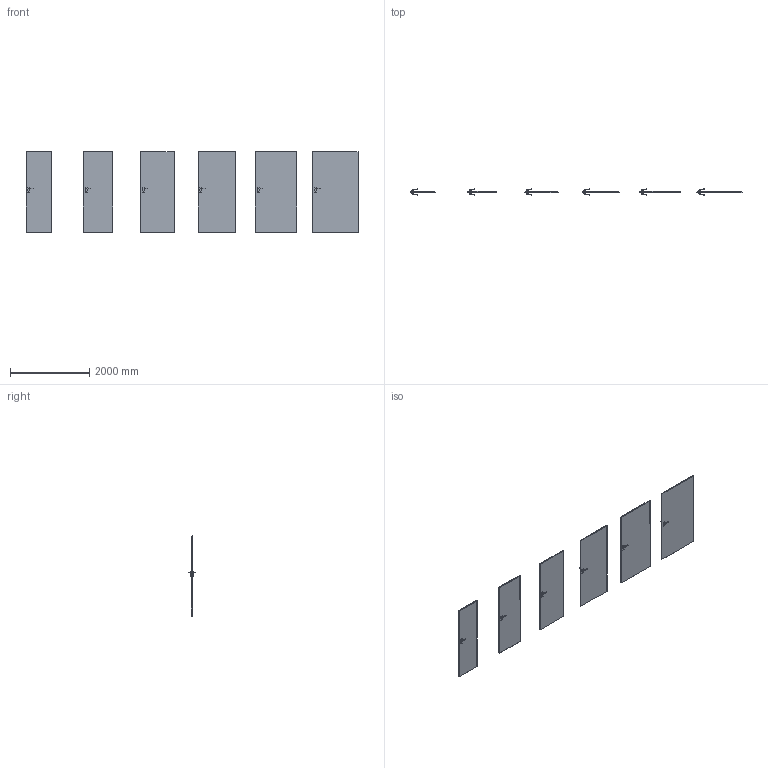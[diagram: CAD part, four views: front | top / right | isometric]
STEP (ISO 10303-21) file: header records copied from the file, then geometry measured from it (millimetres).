
FILE_DESCRIPTION(/* description */ (''),/* implementation_level */ '2;1');
FILE_NAME(/* name */ '049739_A_4-Skrzydło 4 Żywioły POWIETRZE model P.1_ polska norma _PN__ przylgowe..stp',/* time_stamp */ '2024-03-01T12:58:01+01:00',/* author */ (''),/* organization */ (''),/* preprocessor_version */ 'ST-DEVELOPER v16',/* originating_system */ 'SIEMENS PLM Software NX 11.0',/* authorisation */ '');
FILE_SCHEMA (('AUTOMOTIVE_DESIGN { 1 0 10303 214 3 1 1 1 }'));
Length unit declared in the file: millimetre
Products named in the file (1): bkni539C997Bnr2v
Bounding box: 8394 x 153.27 x 2030 mm (x, y, z)
Volume: 418559109.9 mm3; surface area: 23478097.1 mm2
Topology: 30 solids, 30 shells, 1080 faces, 2532 edges, 1392 vertices
Faces by surface type: plane 456, cylinder 264, bspline 192, sphere 168
Entity records: 36100 total; most frequent: CARTESIAN_POINT 13261, ORIENTED_EDGE 4728, DIRECTION 4502, EDGE_CURVE 2364, AXIS2_PLACEMENT_3D 1609, VERTEX_POINT 1392, LINE 1284, VECTOR 1284
